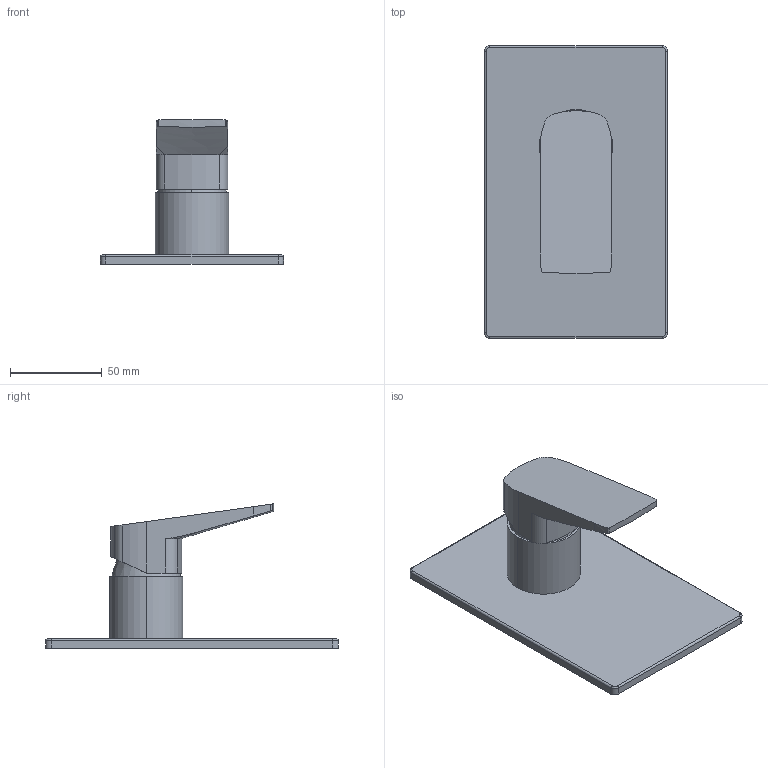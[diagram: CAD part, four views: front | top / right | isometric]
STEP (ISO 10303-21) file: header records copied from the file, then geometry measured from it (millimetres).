
FILE_DESCRIPTION(('FreeCAD Model'),'2;1');
FILE_NAME('Open CASCADE Shape Model','2024-11-19T14:25:42',('Author'),( ''),'Open CASCADE STEP processor 7.6','FreeCAD','Unknown');
FILE_SCHEMA(('AUTOMOTIVE_DESIGN { 1 0 10303 214 1 1 1 1 }'));
Length unit declared in the file: millimetre
Products named in the file (2): TopLevelAssembly; Połączona geometria bryłowa
Assembly tree (1 placements, depth 2):
  TopLevelAssembly
    Połączona geometria bryłowa
Bounding box: 100 x 160 x 78.82 mm (x, y, z)
Volume: 177452.8 mm3; surface area: 47764.5 mm2
Topology: 1 solids, 1 shells, 44 faces, 108 edges, 68 vertices
Faces by surface type: cylinder 23, plane 12, bspline 9
Entity records: 1451 total; most frequent: CARTESIAN_POINT 384, DIRECTION 222, ORIENTED_EDGE 216, EDGE_CURVE 108, AXIS2_PLACEMENT_3D 88, VERTEX_POINT 68, FACE_BOUND 46, EDGE_LOOP 46
